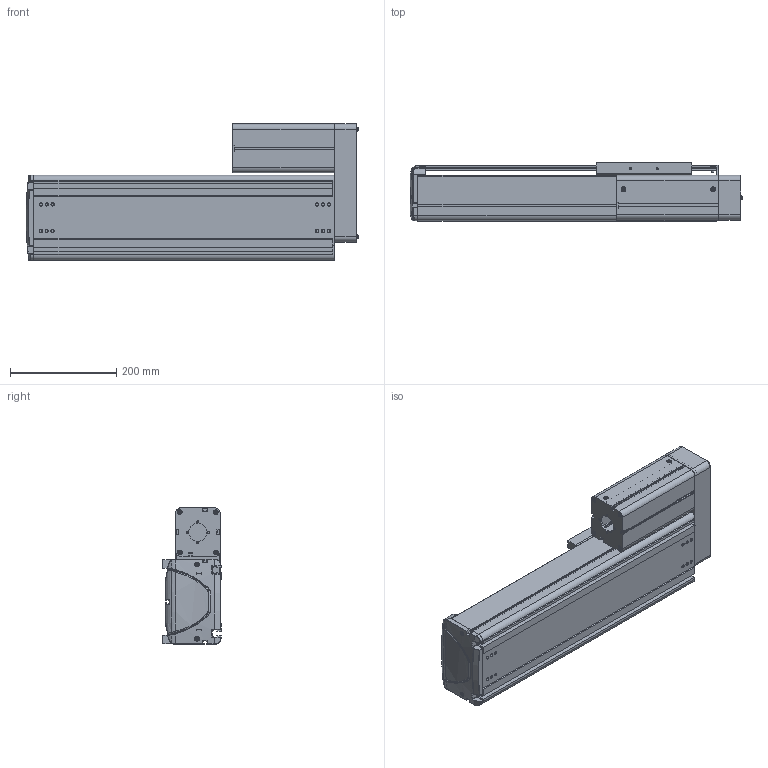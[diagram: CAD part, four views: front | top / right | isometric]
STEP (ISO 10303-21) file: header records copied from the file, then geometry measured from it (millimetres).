
FILE_DESCRIPTION((''),'2;1');
FILE_NAME('BE50F-UR-M_B-30_IGS_PRT','2017-06-18T',(' '),(''),'PRO/ENGINEER BY PARAMETRIC TECHNOLOGY CORPORATION, 2015030','PRO/ENGINEER BY PARAMETRIC TECHNOLOGY CORPORATION, 2015030','');
FILE_SCHEMA(('CONFIG_CONTROL_DESIGN'));
Length unit declared in the file: millimetre
Products named in the file (1): BE50F-UR-M_B-30_IGS_PRT
Bounding box: 625.88 x 110 x 257 mm (x, y, z)
Volume: 3211154.3 mm3; surface area: 1285334 mm2
Topology: 4 solids, 112 shells, 2083 faces, 5591 edges, 3642 vertices
Faces by surface type: plane 978, cylinder 855, cone 107, torus 59, bspline 52, sphere 32
Entity records: 68281 total; most frequent: CARTESIAN_POINT 15369, DIRECTION 11156, ORIENTED_EDGE 10704, EDGE_CURVE 5557, AXIS2_PLACEMENT_3D 3956, VERTEX_POINT 3642, VECTOR 3244, LINE 3244
